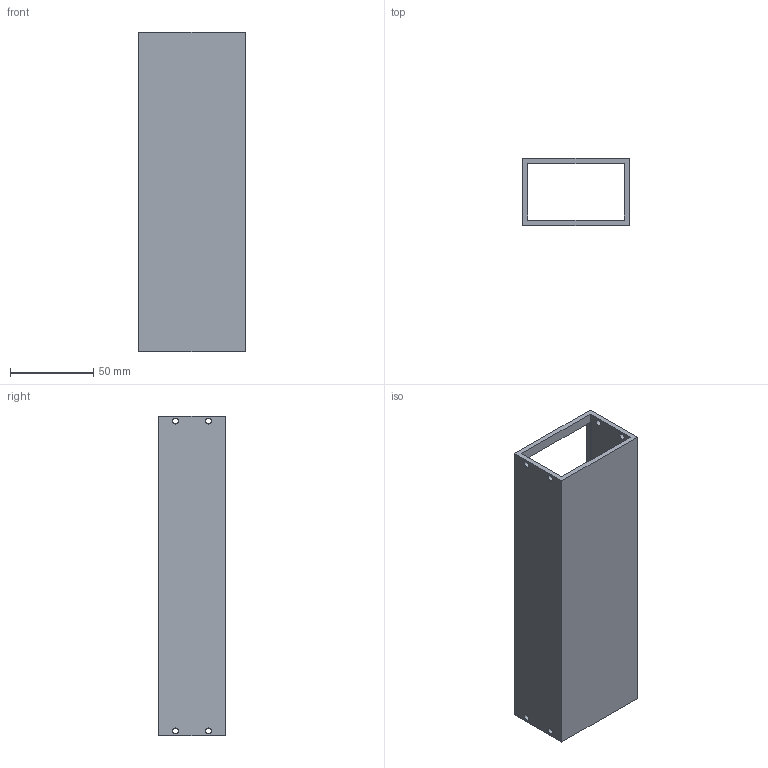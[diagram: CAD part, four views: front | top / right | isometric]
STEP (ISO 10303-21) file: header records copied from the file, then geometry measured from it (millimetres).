
FILE_DESCRIPTION(('Open CASCADE Model'),'2;1');
FILE_NAME('Open CASCADE Shape Model','2026-10-06T17:17:59',('Author'),( 'Open CASCADE'),'Open CASCADE STEP processor 7.8','Open CASCADE 7.8' ,'Unknown');
FILE_SCHEMA(('AUTOMOTIVE_DESIGN { 1 0 10303 214 1 1 1 1 }'));
Length unit declared in the file: millimetre
Products named in the file (1): Open CASCADE STEP translator 7.8 7
Bounding box: 64 x 40 x 192 mm (x, y, z)
Volume: 81331.7 mm3; surface area: 57096.6 mm2
Topology: 1 solids, 1 shells, 25 faces, 68 edges, 44 vertices
Faces by surface type: plane 17, cylinder 8
Full cylindrical faces by diameter (mm): 3.6 x8
Entity records: 1692 total; most frequent: CARTESIAN_POINT 302, DIRECTION 244, LINE 144, VECTOR 144, ORIENTED_EDGE 136, PCURVE 136, DEFINITIONAL_REPRESENTATION 136, EDGE_CURVE 68
